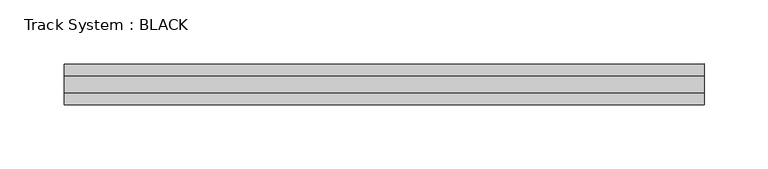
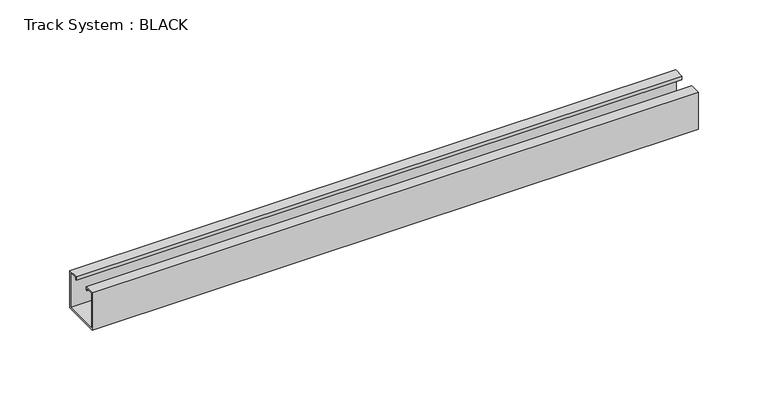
"""IFC4 building model written with IfcOpenShell, lengths in millimetres: proxy geometry, Track System : BLACK."""

from ifc_helpers import new_model, si_unit, frame, origin, place, context, project, spatial, polyline, outline, extrude, source, transform, mapped, element, save


def track_system_black_ad7716e7(model_context):
    return source(origin(), model_context, "Body", "SweptSolid", [
        extrude(outline(polyline([(-7.0, 32.5), (-7.0, 29.5366355), (-8.0, 29.5366355), (-8.0, 31.5), (-14.9857524, 31.5), (-14.9857524, 1.0), (15.0, 1.0), (15.0, 31.5), (8.0, 31.5), (8.0, 29.5366355), (7.0, 29.5366355), (7.0, 32.5), (16.0, 32.5), (16.0, 0.0), (-15.9857524, 0.0), (-15.9857524, 32.5), (-7.0, 32.5)])), frame((-250.0, 0.0, 0.0), z_axis=(1.0, 0.0, 0.0), x_axis=(0.0, 1.0, 0.0)), (0.0, 0.0, 1.0), 500.0),
    ])


if __name__ == "__main__":
    model = new_model("IFC4")
    model_context = context("Model", 3, world=origin())
    ifc_project = project(units=[si_unit("LENGTHUNIT", "METRE", prefix="MILLI")], contexts=[model_context])
    site = spatial("IfcSite", under=ifc_project)
    building = spatial("IfcBuilding", under=site)
    placement = place(None, origin())
    track_system_black_shape = track_system_black_ad7716e7(model_context)
    element("IfcBuildingElementProxy", 1, Name="Track System : BLACK", ObjectType="Track System : BLACK", at=placement, inside=building, context=model_context, shape_type="MappedRepresentation", body=[
        mapped(track_system_black_shape, transform((0.0, 0.0, 0.0), x_axis=(1.0, 0.0, 0.0), y_axis=(0.0, 1.0, 0.0), z_axis=(0.0, 0.0, 1.0))),
    ])
    save(model, "model.ifc")
